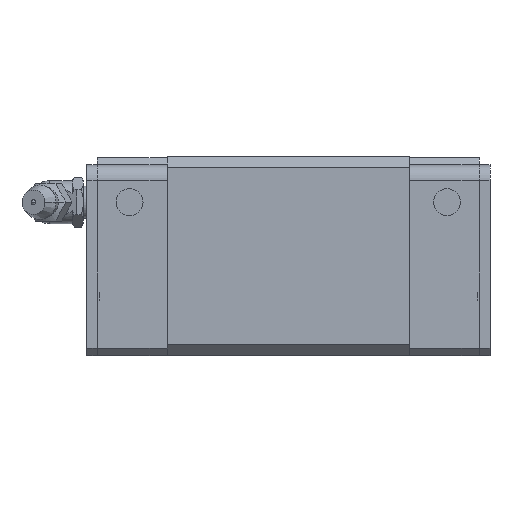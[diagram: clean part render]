
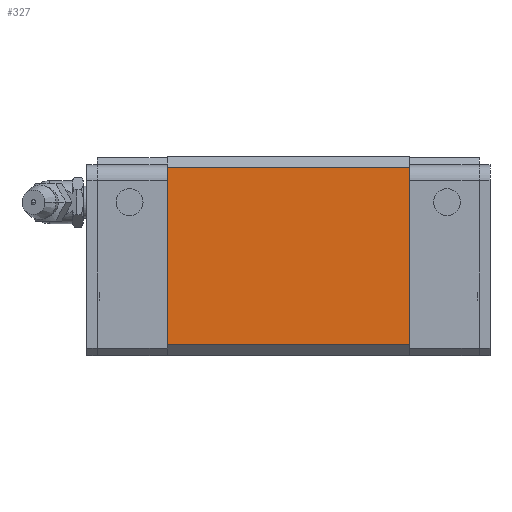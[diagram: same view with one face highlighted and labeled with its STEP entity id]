
A CAD part, front view. The second image highlights one B-rep face of the part: STEP entity #327.
In plain terms, the highlighted planar face has unit normal (0, -1, 0).
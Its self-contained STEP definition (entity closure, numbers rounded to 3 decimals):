
#266=CARTESIAN_POINT('POINT18',(60.,-35.,
   2.));
#267=VERTEX_POINT('VERTEX18',#266);
#274=CARTESIAN_POINT('POINT19',(15.,-35.,
   2.));
#275=VERTEX_POINT('VERTEX19',#274);
#276=CARTESIAN_POINT('POS29',(15.,-35.,
   2.));
#277=DIRECTION('DIR42',(1.,0.,0.));
#278=VECTOR('VEC16',#277,1.);
#279=LINE('STRAIGHT16',#276,#278);
#280=EDGE_CURVE('EDGE28',#275,#267,#279,.T.);
#297=CARTESIAN_POINT('POINT20',(60.,-35.,
   35.));
#298=VERTEX_POINT('VERTEX20',#297);
#299=CARTESIAN_POINT('POS32',(60.,-35.,
   2.));
#300=DIRECTION('DIR46',(0.,0.,1.));
#301=VECTOR('VEC18',#300,1.);
#302=LINE('STRAIGHT18',#299,#301);
#303=EDGE_CURVE('EDGE30',#267,#298,#302,.T.);
#304=ORIENTED_EDGE('COEDGE51',*,*,#303,.T.);
#305=CARTESIAN_POINT('POINT21',(15.,-35.,
   35.));
#306=VERTEX_POINT('VERTEX21',#305);
#307=CARTESIAN_POINT('POS33',(15.,-35.,
   35.));
#308=DIRECTION('DIR47',(1.,0.,0.));
#309=VECTOR('VEC19',#308,1.);
#310=LINE('STRAIGHT19',#307,#309);
#311=EDGE_CURVE('EDGE31',#306,#298,#310,.T.);
#312=ORIENTED_EDGE('COEDGE52',*,*,#311,.F.);
#313=CARTESIAN_POINT('POS34',(15.,-35.,
   2.));
#314=DIRECTION('DIR48',(0.,0.,1.));
#315=VECTOR('VEC20',#314,1.);
#316=LINE('STRAIGHT20',#313,#315);
#317=EDGE_CURVE('EDGE32',#275,#306,#316,.T.);
#318=ORIENTED_EDGE('COEDGE53',*,*,#317,.F.);
#319=ORIENTED_EDGE('COEDGE54',*,*,#280,.T.);
#320=EDGE_LOOP('NONE',(#304,#312,#318,#319));
#321=FACE_BOUND('LOOP1',#320,.T.);
#322=CARTESIAN_POINT('POS35',(15.,-35.,
   2.));
#323=DIRECTION('DIR49',(0.,-1.,0.));
#324=DIRECTION('DIR50',(1.,0.,0.));
#325=AXIS2_PLACEMENT_3D('AXIS15',#322,#323,#324);
#326=PLANE('PLANE4',#325);
#327=ADVANCED_FACE('FACE14',(#321),#326,.T.);
